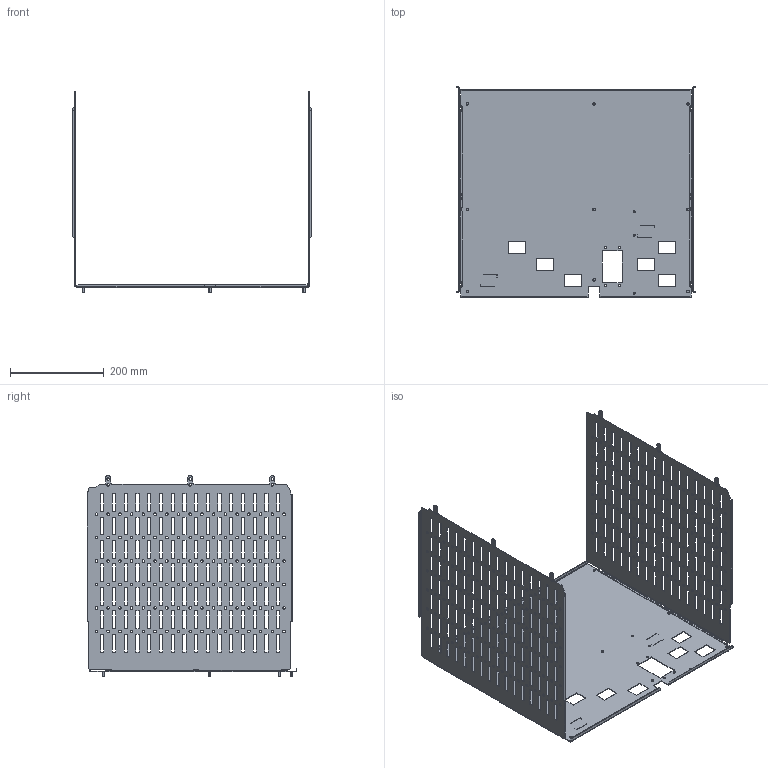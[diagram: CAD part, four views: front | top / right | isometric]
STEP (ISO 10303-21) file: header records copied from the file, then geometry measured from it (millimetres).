
FILE_DESCRIPTION(('CAx-IF Rec.Pracs.---Model Styling and Organization---1.2---2011-12-15','CAx-IF Rec.Pracs.---Geometric and Assembly Validation Properties---4.1---2014-06-16','CAx-IF Rec.Pracs.---PMI Polyline Presentation---2.0---2013-05-24'),'2;1');
FILE_NAME('R5M2W9M1A22.stp','2021-05-05T12:34:13+03:00',(''),(''),'STEP Interface 4.4 by CT CoreTechnologie','3D_Evolution4.4 by CT CoreTechnologie','');
FILE_SCHEMA(('AUTOMOTIVE_DESIGN { 1 0 10303 214 1 1 1 1 }'));
Length unit declared in the file: millimetre
Products named in the file (5): R5M2W9M1A22; RB.1285.00.00.0_-14; RB.1285.00.00.0_-15; M5x8-DIN7500C_stright; RB.1257.00.00.0_-13
Assembly tree (12 placements, depth 2):
  R5M2W9M1A22
    RB.1285.00.00.0_-14
    RB.1285.00.00.0_-15
    M5x8-DIN7500C_stright  x9
    RB.1257.00.00.0_-13
Bounding box: 510 x 447.5 x 428.6 mm (x, y, z)
Surface area: 1046097.7 mm2 (no closed solid volume)
Topology: 0 solids, 16 shells, 1674 faces, 4966 edges, 3312 vertices
Faces by surface type: plane 1134, cylinder 540
Entity records: 57442 total; most frequent: CARTESIAN_POINT 9853, ORIENTED_EDGE 9836, DIRECTION 9284, EDGE_CURVE 4918, VECTOR 3862, LINE 3862, VERTEX_POINT 3280, AXIS2_PLACEMENT_3D 2711
